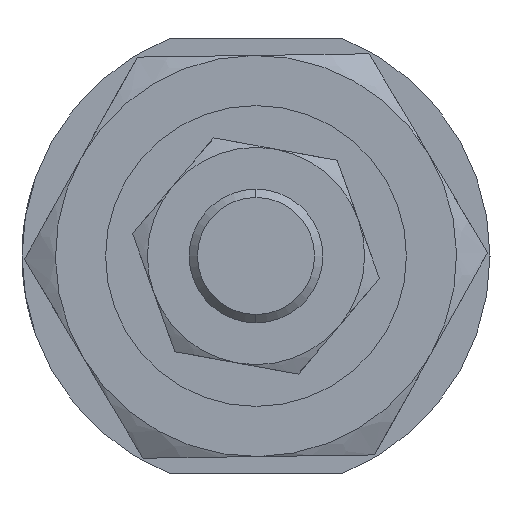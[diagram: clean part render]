
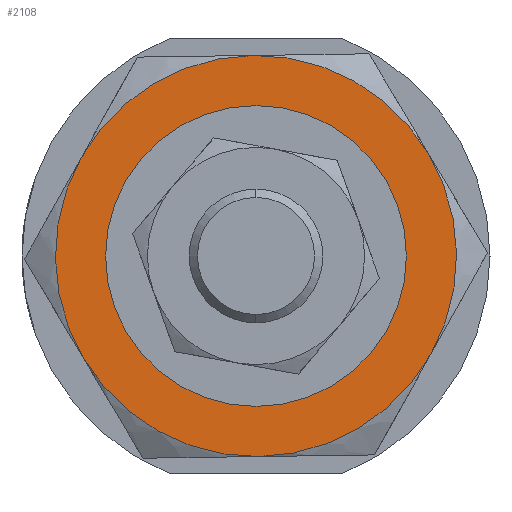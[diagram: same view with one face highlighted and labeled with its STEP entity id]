
A CAD part, left-side view. The second image highlights one B-rep face of the part: STEP entity #2108.
In plain terms, the highlighted planar face has unit normal (-1, 0, 0) as drawn and (0, 0, -1) by its records, which use the part's own axes.
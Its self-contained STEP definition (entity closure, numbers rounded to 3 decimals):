
#15 = CARTESIAN_POINT ( 'NONE',  ( 6., 10.392, -4. ) ) ;
#29 = ORIENTED_EDGE ( 'NONE', *, *, #908, .F. ) ;
#30 = CIRCLE ( 'NONE', #2173, 12. ) ;
#39 = DIRECTION ( 'NONE',  ( 1., 0., 0. ) ) ;
#109 = DIRECTION ( 'NONE',  ( 1., 0., 0. ) ) ;
#115 = CARTESIAN_POINT ( 'NONE',  ( 8.25, 0., -4. ) ) ;
#154 = EDGE_CURVE ( 'NONE', #349, #2184, #2425, .T. ) ;
#167 = DIRECTION ( 'NONE',  ( 0., 0., 1. ) ) ;
#169 = AXIS2_PLACEMENT_3D ( 'NONE', #837, #388, #2618 ) ;
#174 = DIRECTION ( 'NONE',  ( 1., 0., 0. ) ) ;
#271 = DIRECTION ( 'NONE',  ( 0., 0., 1. ) ) ;
#349 = VERTEX_POINT ( 'NONE', #1592 ) ;
#371 = DIRECTION ( 'NONE',  ( 1., 0., 0. ) ) ;
#387 = VERTEX_POINT ( 'NONE', #15 ) ;
#388 = DIRECTION ( 'NONE',  ( 0., 0., 1. ) ) ;
#453 = VERTEX_POINT ( 'NONE', #1043 ) ;
#602 = CIRCLE ( 'NONE', #1206, 12. ) ;
#623 = EDGE_CURVE ( 'NONE', #2071, #387, #1532, .T. ) ;
#688 = DIRECTION ( 'NONE',  ( 1., 0., 0. ) ) ;
#729 = DIRECTION ( 'NONE',  ( 0., 0., 1. ) ) ;
#732 = CARTESIAN_POINT ( 'NONE',  ( 0., 0., -4. ) ) ;
#837 = CARTESIAN_POINT ( 'NONE',  ( 0., 0., -4. ) ) ;
#852 = AXIS2_PLACEMENT_3D ( 'NONE', #958, #729, #688 ) ;
#876 = ORIENTED_EDGE ( 'NONE', *, *, #1354, .F. ) ;
#908 = EDGE_CURVE ( 'NONE', #453, #349, #602, .T. ) ;
#958 = CARTESIAN_POINT ( 'NONE',  ( 0., 0., -4. ) ) ;
#996 = DIRECTION ( 'NONE',  ( 0., 0., 1. ) ) ;
#1005 = AXIS2_PLACEMENT_3D ( 'NONE', #1489, #167, #371 ) ;
#1043 = CARTESIAN_POINT ( 'NONE',  ( -12., 0., -4. ) ) ;
#1044 = EDGE_CURVE ( 'NONE', #1244, #2073, #1401, .T. ) ;
#1063 = AXIS2_PLACEMENT_3D ( 'NONE', #732, #2509, #39 ) ;
#1133 = CARTESIAN_POINT ( 'NONE',  ( -8.25, 0., -4. ) ) ;
#1206 = AXIS2_PLACEMENT_3D ( 'NONE', #2524, #271, #2748 ) ;
#1212 = EDGE_LOOP ( 'NONE', ( #1958, #1812, #1241, #29, #2746, #876 ) ) ;
#1241 = ORIENTED_EDGE ( 'NONE', *, *, #154, .F. ) ;
#1244 = VERTEX_POINT ( 'NONE', #115 ) ;
#1354 = EDGE_CURVE ( 'NONE', #387, #2886, #2741, .T. ) ;
#1396 = CARTESIAN_POINT ( 'NONE',  ( 12., 0., -4. ) ) ;
#1401 = CIRCLE ( 'NONE', #852, 8.25 ) ;
#1423 = CARTESIAN_POINT ( 'NONE',  ( 6., -10.392, -4. ) ) ;
#1484 = DIRECTION ( 'NONE',  ( 1., 0., 0. ) ) ;
#1489 = CARTESIAN_POINT ( 'NONE',  ( 0., 0., -4. ) ) ;
#1514 = DIRECTION ( 'NONE',  ( 0., 0., 1. ) ) ;
#1532 = CIRCLE ( 'NONE', #2371, 12. ) ;
#1540 = EDGE_CURVE ( 'NONE', #2184, #2071, #30, .T. ) ;
#1577 = CARTESIAN_POINT ( 'NONE',  ( -6., 10.392, -4. ) ) ;
#1592 = CARTESIAN_POINT ( 'NONE',  ( -6., -10.392, -4. ) ) ;
#1614 = ORIENTED_EDGE ( 'NONE', *, *, #1044, .T. ) ;
#1675 = ORIENTED_EDGE ( 'NONE', *, *, #2368, .T. ) ;
#1690 = DIRECTION ( 'NONE',  ( 0., 0., 1. ) ) ;
#1812 = ORIENTED_EDGE ( 'NONE', *, *, #1540, .F. ) ;
#1820 = EDGE_LOOP ( 'NONE', ( #1614, #1675 ) ) ;
#1945 = DIRECTION ( 'NONE',  ( 0., 0., 1. ) ) ;
#1958 = ORIENTED_EDGE ( 'NONE', *, *, #623, .F. ) ;
#2035 = CIRCLE ( 'NONE', #2723, 12. ) ;
#2055 = PLANE ( 'NONE',  #1063 ) ;
#2071 = VERTEX_POINT ( 'NONE', #1396 ) ;
#2073 = VERTEX_POINT ( 'NONE', #1133 ) ;
#2108 = ADVANCED_FACE ( 'NONE', ( #2492, #2353 ), #2055, .F. ) ;
#2147 = CIRCLE ( 'NONE', #169, 8.25 ) ;
#2149 = CARTESIAN_POINT ( 'NONE',  ( 0., 0., -4. ) ) ;
#2173 = AXIS2_PLACEMENT_3D ( 'NONE', #2349, #996, #109 ) ;
#2184 = VERTEX_POINT ( 'NONE', #1423 ) ;
#2248 = EDGE_CURVE ( 'NONE', #2886, #453, #2035, .T. ) ;
#2349 = CARTESIAN_POINT ( 'NONE',  ( 0., 0., -4. ) ) ;
#2353 = FACE_OUTER_BOUND ( 'NONE', #1212, .T. ) ;
#2368 = EDGE_CURVE ( 'NONE', #2073, #1244, #2147, .T. ) ;
#2371 = AXIS2_PLACEMENT_3D ( 'NONE', #2434, #1514, #174 ) ;
#2425 = CIRCLE ( 'NONE', #2521, 12. ) ;
#2434 = CARTESIAN_POINT ( 'NONE',  ( 0., 0., -4. ) ) ;
#2492 = FACE_BOUND ( 'NONE', #1820, .T. ) ;
#2509 = DIRECTION ( 'NONE',  ( 0., 0., 1. ) ) ;
#2521 = AXIS2_PLACEMENT_3D ( 'NONE', #2149, #1945, #1484 ) ;
#2524 = CARTESIAN_POINT ( 'NONE',  ( 0., 0., -4. ) ) ;
#2586 = CARTESIAN_POINT ( 'NONE',  ( 0., 0., -4. ) ) ;
#2618 = DIRECTION ( 'NONE',  ( 1., 0., 0. ) ) ;
#2723 = AXIS2_PLACEMENT_3D ( 'NONE', #2586, #1690, #2814 ) ;
#2741 = CIRCLE ( 'NONE', #1005, 12. ) ;
#2746 = ORIENTED_EDGE ( 'NONE', *, *, #2248, .F. ) ;
#2748 = DIRECTION ( 'NONE',  ( 1., 0., 0. ) ) ;
#2814 = DIRECTION ( 'NONE',  ( 1., 0., 0. ) ) ;
#2886 = VERTEX_POINT ( 'NONE', #1577 ) ;
